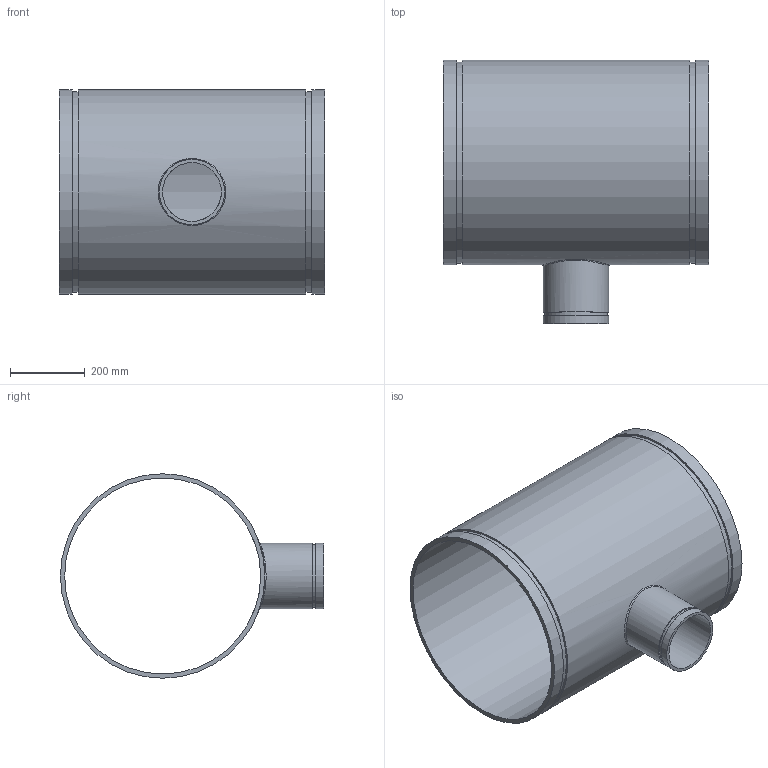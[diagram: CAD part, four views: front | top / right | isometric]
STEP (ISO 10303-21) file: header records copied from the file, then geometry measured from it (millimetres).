
FILE_DESCRIPTION(/* description */ ('VIC REDUCING TEE No 25-C','CAx-IF Rec.Pracs.---Representation and Presentation of Product Manufacturing Information (PMI)---4.0---2014-10-13'),/* implementation_level */ '2;1');
FILE_NAME(/* name */ 'C:\Users\Vjadhav\AppData\Roaming\Autodesk\ApplicationPlugins\Back Up\Victaulic_AWWA_Tee Reducing_No 25-C (DRG)\Victaulic_AWWA_Tee Reducing_No 25-C (DRG)_20.0x06.0 (500x150).stp',/* time_stamp */ '2020-08-18T18:18:35+06:00',/* author */ ('CORINNE GRAY'),/* organization */ ('Victaulic'),/* preprocessor_version */ 'ST-DEVELOPER v17.2',/* originating_system */ 'Autodesk Inventor 2019',/* authorisation */ '');
FILE_SCHEMA (('PROCESS_PLANNING_SCHEMA','AP242_MANAGED_MODEL_BASED_3D_ENGINEERING_MIM_LF { 1 0 10303 442 1 1 4 }'));
Length unit declared in the file: inch
Products named in the file (1): 25C-20.0x06.0
Bounding box: 711.2 x 706.12 x 548.64 mm (x, y, z)
Volume: 13956634.8 mm3; surface area: 2611621 mm2
Topology: 1 solids, 1 shells, 20 faces, 44 edges, 33 vertices
Faces by surface type: cylinder 10, plane 9, bspline 1
Full cylindrical faces by diameter (mm): 157.988 x1, 169.062 x1, 175.26 x2, 525.78 x1, 538.963 x2, 548.64 x3
Entity records: 975 total; most frequent: CARTESIAN_POINT 351, DIRECTION 135, ORIENTED_EDGE 90, AXIS2_PLACEMENT_3D 62, EDGE_CURVE 45, VERTEX_POINT 34, EDGE_LOOP 31, CIRCLE 29
